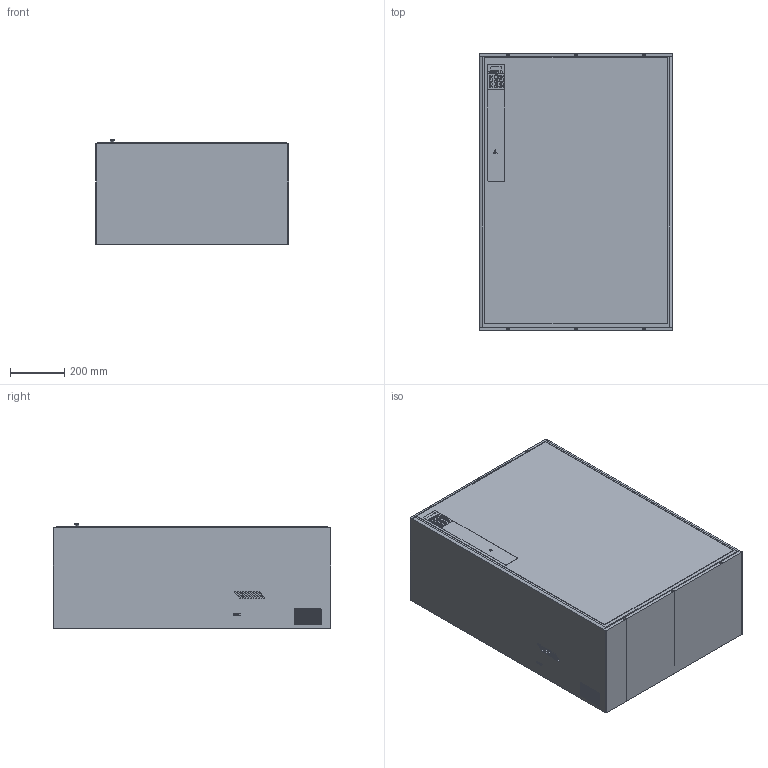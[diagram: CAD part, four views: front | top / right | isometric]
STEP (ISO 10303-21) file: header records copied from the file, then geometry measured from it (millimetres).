
FILE_DESCRIPTION(/* description */ (''),/* implementation_level */ '2;1');
FILE_NAME(/* name */ 'D:\2 ДОГОВОР ЧИНТ\Выслать\CHINT 10.03.2019\NVF2G\NVF2G-220 TS4(245 PS4) NVF2G-245 TS4(280 PS4) NVF2G-280 TS4(315 PS4).stp',/* time_stamp */ '2019-03-11T19:04:18+03:00',/* author */ ('RSagdiev'),/* organization */ (''),/* preprocessor_version */ 'ST-DEVELOPER v16.5',/* originating_system */ 'Autodesk Inventor 2017',/* authorisation */ '');
FILE_SCHEMA (('AUTOMOTIVE_DESIGN { 1 0 10303 214 3 1 1 }'));
Length unit declared in the file: millimetre
Products named in the file (1): NVF2G-220 TS4(245 PS4) NVF2G-245 TS4(280 PS4) NVF2G-280 TS4(315 PS4)
Bounding box: 710.1 x 1020 x 386 mm (x, y, z)
Volume: 272253378.8 mm3; surface area: 5608075.5 mm2
Topology: 15 solids, 15 shells, 1637 faces, 3840 edges, 2560 vertices
Faces by surface type: plane 1036, cylinder 318, bspline 193, cone 90
Full cylindrical faces by diameter (mm): 2 x7, 4 x240, 10 x6, 13 x3
Entity records: 47138 total; most frequent: CARTESIAN_POINT 11302, ORIENTED_EDGE 7168, DIRECTION 6724, EDGE_CURVE 3584, VERTEX_POINT 2560, AXIS2_PLACEMENT_3D 2261, EDGE_LOOP 2232, LINE 2202
